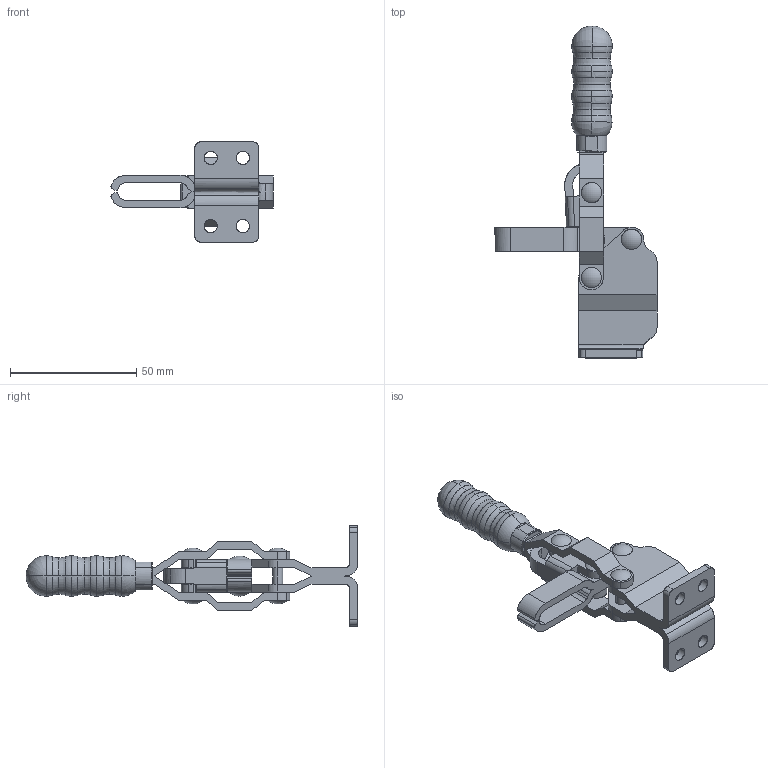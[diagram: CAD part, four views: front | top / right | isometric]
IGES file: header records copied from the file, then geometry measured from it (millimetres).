
Start section: Comment
Global section: file name: 12050hb.igs; native system:  By Spatial Corp.; preprocessor: XPlus PS/IGES 3.0; author: Author; organization: Title; date: 20050216.170209; units: inch
Bounding box: 64.14 x 131.41 x 39.7 mm (x, y, z)
Surface area: 21335.8 mm2 (no closed solid volume)
Topology: 0 solids, 0 shells, 289 faces, 1573 edges, 1522 vertices
Faces by surface type: revolution 189, extrusion 98, bspline 2
